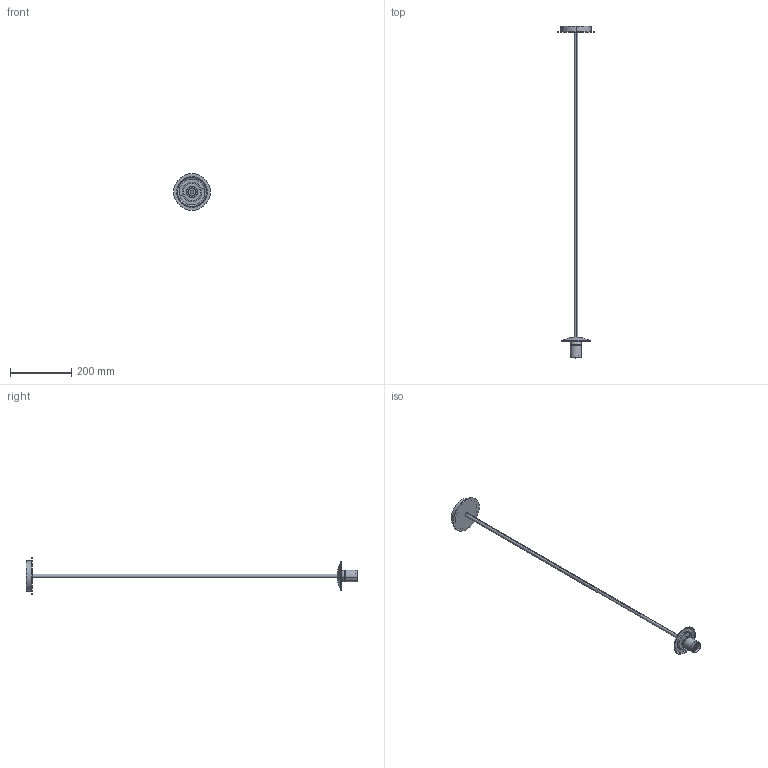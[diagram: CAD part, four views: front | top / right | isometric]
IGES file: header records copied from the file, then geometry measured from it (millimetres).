
Start section: SolidWorks IGES file using analytic representation for surfaces
Global section: file name: \\192.168.111.232\grupos\DISENYO\DESARROLLO DE PRODUCTO\PARMA-3946\PARMA-C3946280XXSP-COLGANTE 1 LUZ TIJA FIJA\PARMA STEM 1 LUZ.IGS; native system: SolidWorks 2025; preprocessor: SolidWorks 2025; author: o.domenech; date: 260121.131746; units: millimetre
Bounding box: 120 x 1087.4 x 120 mm (x, y, z)
Volume: 281863.3 mm3; surface area: 142274.2 mm2
Topology: 4 solids, 4 shells, 74 faces, 513 edges, 611 vertices
Faces by surface type: revolution 53, plane 17, bspline 4
